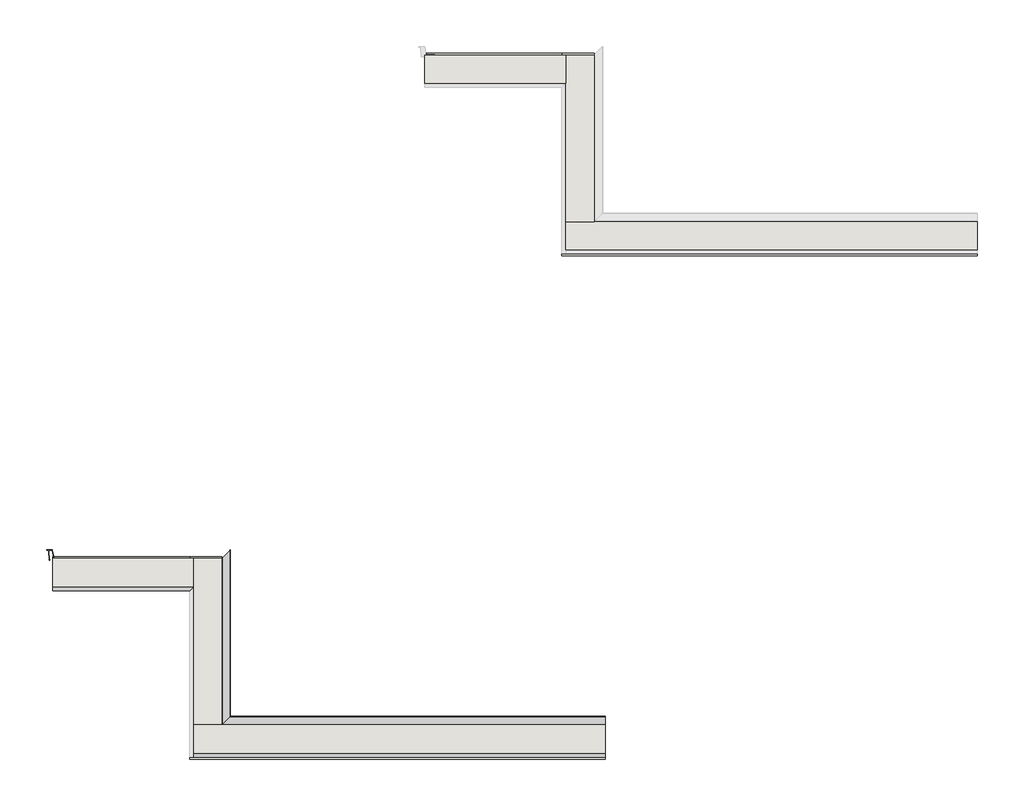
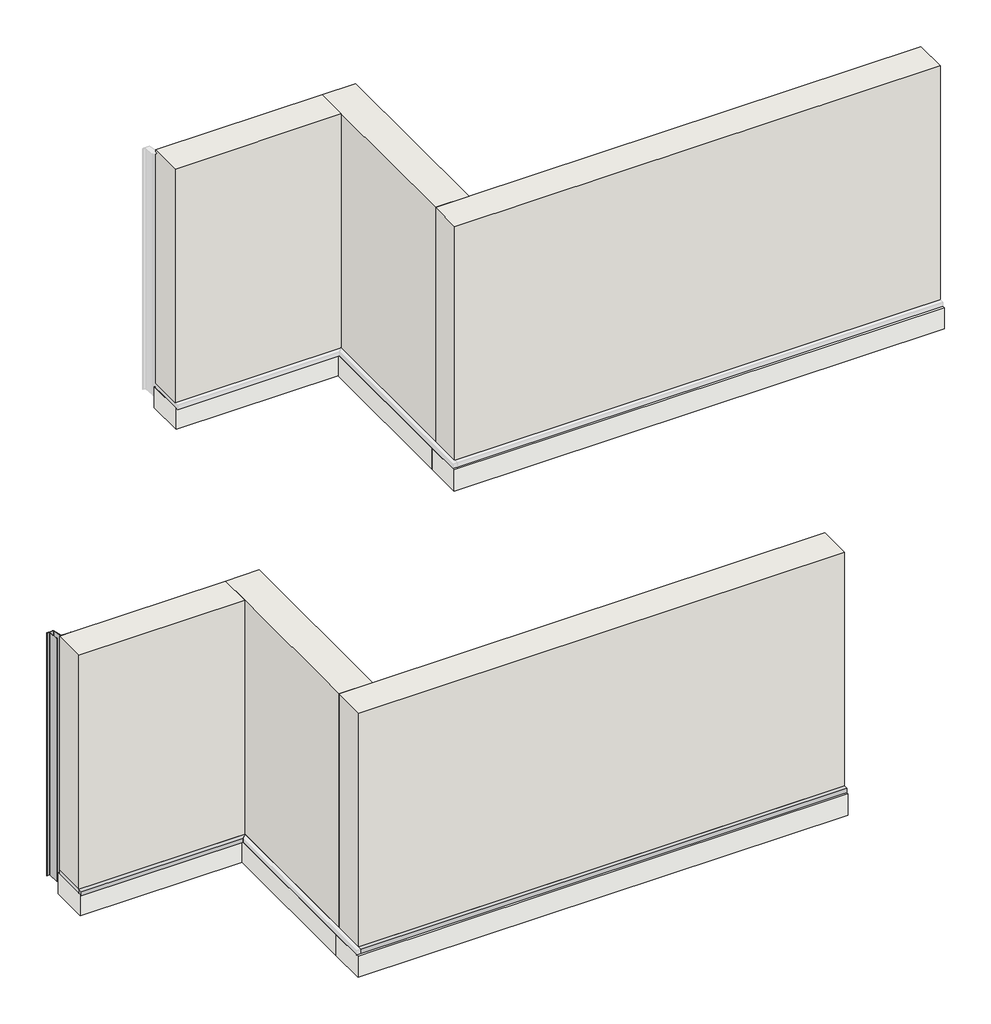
# One storey, part 1 of 2: 8 proxies, 6 footings, 6 walls.
"""IFC4 building model written with IfcOpenShell, lengths in millimetres."""

from ifc_helpers import new_model, si_unit, frame, origin, origin_with_axes, place, context, project, spatial, polyline, circle_curve, ellipse_curve, outline, extrude, faceted_brep, transform, mapped, element, save
from ifc_brep_helpers import plane_surface, cylinder_surface, revolved_surface, advanced_brep
from components import end_cap_end_cap_c93f98a4

model = new_model("IFC4")

# Units and contexts
model_context = context("Model", 3, world=origin())
ifc_project = project(units=[si_unit("LENGTHUNIT", "METRE", prefix="MILLI")], contexts=[model_context])

# Site, building, storey
site = spatial("IfcSite", under=ifc_project)
building = spatial("IfcBuilding", under=site)
storey = spatial("IfcBuildingStorey", under=building, Name="Air Blocking KPA-L150U", Elevation=0.0)

# Proxies
placement = place(None, origin())
element("IfcBuildingElementProxy", 1, Name="Joto-Vent KP-L150U", ObjectType="Joto-Vent KP-L150U", at=placement, inside=storey, context=model_context, shape_type="SweptSolid", body=[
    extrude(outline(polyline([(347.2963027, 5641.1901451), (497.2963027, 5791.1901451), (2522.2963027, 5791.1901451), (2522.2963027, 5641.1901451), (347.2963027, 5641.1901451)])), origin_with_axes(), (0.0, 0.0, 1.0), 20.0),
])
element("IfcBuildingElementProxy", 2, Name="Architectural-Covering_WACF-U45", ObjectType="Architectural-Covering_WACF-U45", at=placement, inside=storey, context=model_context, shape_type="AdvancedBrep", body=[
    advanced_brep(
    [(498.0963027, 5791.9901451, 62.5), (498.0963027, 5791.9901451, 18.6269726), (498.839923, 5792.7337654, 17.7168268), (541.5259972, 5835.4198396, 9.0322469), (542.2963027, 5836.1901451, 8.0894401), (542.2963027, 5836.1901451, -20.6283181), (539.4963027, 5833.3901451, -20.6283181), (539.4963027, 5833.3901451, -10.7749849), (538.7242223, 5832.6180647, -9.9754722), (488.7770757, 5782.6709181, -8.2312794), (488.8752389, 5782.7690814, -5.4202514), (493.3349669, 5787.2288093, -5.5759885), (493.3070643, 5787.2009067, -6.3750142), (488.8672982, 5782.7611407, -6.2199741), (488.8249402, 5782.7187826, -7.4329509), (539.3062365, 5833.2000789, -9.1957966), (540.2963027, 5834.1901451, -10.2210401), (540.2963027, 5834.1901451, -20.6018682), (541.4963027, 5835.3901451, -20.6018682), (541.4963027, 5835.3901451, 7.5064524), (540.7952188, 5834.6890613, 8.3645361), (498.0879552, 5791.9817976, 17.0534271), (497.2963027, 5791.1901451, 18.0223614), (497.2963027, 5791.1901451, 62.5), (2522.2963027, 5791.9901451, 62.5), (2522.2963027, 5791.1901451, 62.5), (2522.2963027, 5791.1901451, 18.0223614), (2522.2963027, 5791.9817976, 17.0534271), (2522.2963027, 5834.6890613, 8.3645361), (2522.2963027, 5835.3901451, 7.5064524), (2522.2963027, 5835.3901451, -20.6018682), (2522.2963027, 5834.1901451, -20.6018682), (2522.2963027, 5834.1901451, -10.2210401), (2522.2963027, 5833.2000789, -9.1957966), (2522.2963027, 5782.7187826, -7.4329509), (2522.2963027, 5782.7611407, -6.2199741), (2522.2963027, 5787.2009067, -6.3750142), (2522.2963027, 5787.2288093, -5.5759885), (2522.2963027, 5782.7690814, -5.4202514), (2522.2963027, 5782.6709181, -8.2312794), (2522.2963027, 5832.6180647, -9.9754722), (2522.2963027, 5833.3901451, -10.7749849), (2522.2963027, 5833.3901451, -20.6283181), (2522.2963027, 5836.1901451, -20.6283181), (2522.2963027, 5836.1901451, 8.0894401), (2522.2963027, 5835.4198396, 9.0322469), (2522.2963027, 5792.7337654, 17.7168268), (2522.2963027, 5791.9901451, 18.6269726)],
    [
        (0, 1),
        (1, 2, ellipse_curve(frame((499.0250942, 5792.9189367, 18.6269726), z_axis=(0.707106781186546, -0.7071067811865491, 0.0), x_axis=(0.707106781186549, 0.7071067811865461, 0.0)), 1.3135097, 0.9287916)),
        (2, 3),
        (3, 4, ellipse_curve(frame((541.334181, 5835.2280234, 8.0894401), z_axis=(-0.707106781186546, 0.7071067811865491, 0.0), x_axis=(-0.707106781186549, -0.7071067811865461, 0.0)), 1.3606455, 0.9621217)),
        (4, 5),
        (5, 6, ellipse_curve(frame((540.8963027, 5834.7901451, -20.6283181), z_axis=(-0.707106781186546, 0.7071067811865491, 0.0), x_axis=(-0.707106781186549, -0.7071067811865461, 0.0)), 1.979899, 1.4)),
        (6, 7),
        (7, 8, ellipse_curve(frame((538.6963027, 5832.5901451, -10.7749849), z_axis=(0.707106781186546, -0.7071067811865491, 0.0), x_axis=(0.707106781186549, 0.7071067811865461, 0.0)), 1.1313708, 0.8)),
        (8, 9),
        (9, 10, ellipse_curve(frame((488.8261573, 5782.7199997, -6.8257654), z_axis=(-0.707106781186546, 0.7071067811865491, 0.0), x_axis=(-0.707106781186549, -0.7071067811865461, 0.0)), 1.9889086, 1.4063707)),
        (10, 11),
        (11, 12),
        (12, 13),
        (13, 14, ellipse_curve(frame((488.8461192, 5782.7399616, -6.8264625), z_axis=(0.707106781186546, -0.7071067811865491, 0.0), x_axis=(0.707106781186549, 0.7071067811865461, 0.0)), 0.8582269, 0.6068581)),
        (14, 15),
        (15, 16, ellipse_curve(frame((539.2704342, 5833.1642766, -10.2210401), z_axis=(-0.707106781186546, 0.7071067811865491, 0.0), x_axis=(-0.707106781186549, -0.7071067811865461, 0.0)), 1.4507971, 1.0258685)),
        (16, 17),
        (17, 18, ellipse_curve(frame((540.8963027, 5834.7901451, -20.6018682), z_axis=(0.707106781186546, -0.7071067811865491, 0.0), x_axis=(0.707106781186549, 0.7071067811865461, 0.0)), 0.8485281, 0.6)),
        (18, 19),
        (19, 20, ellipse_curve(frame((540.6206397, 5834.5144822, 7.5064524), z_axis=(0.707106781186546, -0.7071067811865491, 0.0), x_axis=(0.707106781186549, 0.7071067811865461, 0.0)), 1.2383744, 0.8756629)),
        (20, 21),
        (21, 22, ellipse_curve(frame((498.2850871, 5792.1789295, 18.0223614), z_axis=(-0.707106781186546, 0.7071067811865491, 0.0), x_axis=(-0.707106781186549, -0.7071067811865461, 0.0)), 1.3983524, 0.9887844)),
        (22, 23),
        (23, 0),
        (24, 25),
        (25, 26),
        (26, 27, circle_curve(frame((2522.2963027, 5792.1789295, 18.0223614), z_axis=(1.0, 0.0, 0.0), x_axis=(0.0, 0.0, -1.0)), 0.9887844)),
        (27, 28),
        (28, 29, circle_curve(frame((2522.2963027, 5834.5144822, 7.5064524), z_axis=(-1.0, 0.0, 0.0), x_axis=(0.0, 0.0, -1.0)), 0.8756629)),
        (29, 30),
        (30, 31, circle_curve(frame((2522.2963027, 5834.7901451, -20.6018682), z_axis=(-1.0, 0.0, 0.0), x_axis=(0.0, 0.0, -1.0)), 0.6)),
        (31, 32),
        (32, 33, circle_curve(frame((2522.2963027, 5833.1642766, -10.2210401), z_axis=(1.0, 0.0, 0.0), x_axis=(0.0, 0.0, -1.0)), 1.0258685)),
        (33, 34),
        (34, 35, circle_curve(frame((2522.2963027, 5782.7399616, -6.8264625), z_axis=(-1.0, 0.0, 0.0), x_axis=(0.0, 0.0, -1.0)), 0.6068581)),
        (35, 36),
        (36, 37),
        (37, 38),
        (38, 39, circle_curve(frame((2522.2963027, 5782.7199997, -6.8257654), z_axis=(1.0, 0.0, 0.0), x_axis=(0.0, 0.0, -1.0)), 1.4063707)),
        (39, 40),
        (40, 41, circle_curve(frame((2522.2963027, 5832.5901451, -10.7749849), z_axis=(-1.0, 0.0, 0.0), x_axis=(0.0, 0.0, -1.0)), 0.8)),
        (41, 42),
        (42, 43, circle_curve(frame((2522.2963027, 5834.7901451, -20.6283181), z_axis=(1.0, 0.0, 0.0), x_axis=(0.0, 0.0, -1.0)), 1.4)),
        (43, 44),
        (44, 45, circle_curve(frame((2522.2963027, 5835.2280234, 8.0894401), z_axis=(1.0, 0.0, 0.0), x_axis=(0.0, 0.0, -1.0)), 0.9621217)),
        (45, 46),
        (46, 47, circle_curve(frame((2522.2963027, 5792.9189367, 18.6269726), z_axis=(-1.0, 0.0, 0.0), x_axis=(0.0, 0.0, -1.0)), 0.9287916)),
        (47, 24),
        (0, 24),
        (47, 1),
        (46, 2),
        (45, 3),
        (44, 4),
        (43, 5),
        (42, 6),
        (41, 7),
        (40, 8),
        (39, 9),
        (38, 10),
        (37, 11),
        (36, 12),
        (35, 13),
        (34, 14),
        (33, 15),
        (32, 16),
        (31, 17),
        (30, 18),
        (29, 19),
        (28, 20),
        (27, 21),
        (26, 22),
        (25, 23),
    ],
    [
        plane_surface(frame((497.2963027, 5791.1901451, -242.3), z_axis=(-0.707106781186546, 0.7071067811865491, 0.0), x_axis=(0.7071067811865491, 0.707106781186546, 0.0))),
        plane_surface(frame((2522.2963027, 5791.1901451, -32.610444), z_axis=(1.0, 0.0, 0.0), x_axis=(0.0, 1.0, 0.0))),
        plane_surface(frame((498.0963027, 5791.9901451, 62.5), z_axis=(0.0, 1.0, 0.0), x_axis=(1.0, 0.0, 0.0))),
        revolved_surface(polyline([(2522.2963027, 5792.9189367, 17.698180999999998), (498.0963025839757, 5792.9189367, 17.698180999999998)]), (497.2963027, 5792.9189367, 18.6269726), (1.0, 0.0, 0.0)),
        plane_surface(frame((498.839923, 5792.7337654, 17.7168268), z_axis=(0.0, 0.19936793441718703, 0.9799247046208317), x_axis=(1.0, 0.0, 0.0))),
        cylinder_surface(frame((497.2963027, 5835.2280234, 8.0894401), z_axis=(-1.0, 0.0, 0.0), x_axis=(0.0, 0.0, -1.0)), 0.9621217),
        plane_surface(frame((542.2963027, 5836.1901451, 8.0894401), z_axis=(0.0, 1.0, 0.0), x_axis=(1.0, 0.0, 0.0))),
        cylinder_surface(frame((497.2963027, 5834.7901451, -20.6283181), z_axis=(-1.0, 0.0, 0.0), x_axis=(0.0, 0.0, -1.0)), 1.4),
        plane_surface(frame((539.4963027, 5833.3901451, -20.6283181), z_axis=(0.0, -1.0, 0.0), x_axis=(1.0, 0.0, 0.0))),
        revolved_surface(polyline([(2522.2963027, 5832.5901451, -11.5749849), (537.8963027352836, 5832.5901451, -11.5749849)]), (497.2963027, 5832.5901451, -10.7749849), (1.0, 0.0, 0.0)),
        plane_surface(frame((538.7242223, 5832.6180647, -9.9754722), z_axis=(0.0, -0.03489949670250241, -0.9993908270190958), x_axis=(1.0, 0.0, 0.0))),
        cylinder_surface(frame((497.2963027, 5782.7199997, -6.8257654), z_axis=(-1.0, 0.0, 0.0), x_axis=(0.0, 0.0, -1.0)), 1.4063707),
        plane_surface(frame((488.8752389, 5782.7690814, -5.4202514), z_axis=(0.0, 0.03489949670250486, 0.9993908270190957), x_axis=(1.0, 0.0, 0.0))),
        plane_surface(frame((493.3349669, 5787.2288093, -5.5759885), z_axis=(0.0, 0.9993908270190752, -0.034899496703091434), x_axis=(1.0, 0.0, 0.0))),
        plane_surface(frame((493.3070643, 5787.2009067, -6.3750142), z_axis=(0.0, -0.03489949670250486, -0.9993908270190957), x_axis=(1.0, 0.0, 0.0))),
        revolved_surface(polyline([(2522.2963027, 5782.7399616, -7.4333206), (488.2392611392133, 5782.7399616, -7.4333206)]), (497.2963027, 5782.7399616, -6.8264625), (1.0, 0.0, 0.0)),
        plane_surface(frame((488.8249402, 5782.7187826, -7.4329509), z_axis=(0.0, 0.03489949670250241, 0.9993908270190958), x_axis=(1.0, 0.0, 0.0))),
        cylinder_surface(frame((497.2963027, 5833.1642766, -10.2210401), z_axis=(-1.0, 0.0, 0.0), x_axis=(0.0, 0.0, -1.0)), 1.0258685),
        plane_surface(frame((540.2963027, 5834.1901451, -10.2210401), z_axis=(0.0, 1.0, 0.0), x_axis=(1.0, 0.0, 0.0))),
        revolved_surface(polyline([(2522.2963027, 5834.7901451, -21.2018682), (540.2963027, 5834.7901451, -21.2018682)]), (497.2963027, 5834.7901451, -20.6018682), (1.0, 0.0, 0.0)),
        plane_surface(frame((541.4963027, 5835.3901451, -20.6018682), z_axis=(0.0, -1.0, 0.0), x_axis=(1.0, 0.0, 0.0))),
        revolved_surface(polyline([(2522.2963027, 5834.5144822, 6.6307895), (539.7449767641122, 5834.5144822, 6.6307895)]), (497.2963027, 5834.5144822, 7.5064524), (1.0, 0.0, 0.0)),
        plane_surface(frame((540.7952188, 5834.6890613, 8.3645361), z_axis=(0.0, -0.19936793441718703, -0.9799247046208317), x_axis=(1.0, 0.0, 0.0))),
        cylinder_surface(frame((497.2963027, 5792.1789295, 18.0223614), z_axis=(-1.0, 0.0, 0.0), x_axis=(0.0, 0.0, -1.0)), 0.9887844),
        plane_surface(frame((497.2963027, 5791.1901451, 18.0223614), z_axis=(0.0, -1.0, 0.0), x_axis=(1.0, 0.0, 0.0))),
        plane_surface(frame((497.2963027, 5791.1901451, 62.5), z_axis=(0.0, 0.0, 1.0), x_axis=(1.0, 0.0, 0.0))),
    ],
    [
        (0, [[1, 2, 3, 4, 5, 6, 7, 8, 9, 10, 11, 12, 13, 14, 15, 16, 17, 18, 19, 20, 21, 22, 23, 24]]),
        (1, [[25, 26, 27, 28, 29, 30, 31, 32, 33, 34, 35, 36, 37, 38, 39, 40, 41, 42, 43, 44, 45, 46, 47, 48]]),
        (2, [[-1, 49, -48, 50]]),
        (3, [[-2, -50, -47, 51]]),
        (4, [[-3, -51, -46, 52]]),
        (5, [[-4, -52, -45, 53]]),
        (6, [[-5, -53, -44, 54]]),
        (7, [[-6, -54, -43, 55]]),
        (8, [[-7, -55, -42, 56]]),
        (9, [[-8, -56, -41, 57]]),
        (10, [[-9, -57, -40, 58]]),
        (11, [[-10, -58, -39, 59]]),
        (12, [[-11, -59, -38, 60]]),
        (13, [[-12, -60, -37, 61]]),
        (14, [[-13, -61, -36, 62]]),
        (15, [[-14, -62, -35, 63]]),
        (16, [[-15, -63, -34, 64]]),
        (17, [[-16, -64, -33, 65]]),
        (18, [[-17, -65, -32, 66]]),
        (19, [[-18, -66, -31, 67]]),
        (20, [[-19, -67, -30, 68]]),
        (21, [[-20, -68, -29, 69]]),
        (22, [[-21, -69, -28, 70]]),
        (23, [[-22, -70, -27, 71]]),
        (24, [[-23, -71, -26, 72]]),
        (25, [[-24, -72, -25, -49]]),
    ],
),
])
element("IfcBuildingElementProxy", 3, Name="Joto-Vent KP-L150U", ObjectType="Joto-Vent KP-L150U", at=placement, inside=storey, context=model_context, shape_type="SweptSolid", body=[
    extrude(outline(polyline([(347.2963027, 6521.1901451), (497.2963027, 6671.1901451), (497.2963027, 5791.1901451), (347.2963027, 5641.1901451), (347.2963027, 6521.1901451)])), origin_with_axes(), (0.0, 0.0, 1.0), 20.0),
])
element("IfcBuildingElementProxy", 4, Name="Architectural-Covering_WACF-U45", ObjectType="Architectural-Covering_WACF-U45", at=placement, inside=storey, context=model_context, shape_type="AdvancedBrep", body=[
    advanced_brep(
    [(498.0963027, 6671.9901451, 62.5), (498.0963027, 6671.9901451, 18.6269726), (498.839923, 6672.7337654, 17.7168268), (541.5259972, 6715.4198396, 9.0322469), (542.2963027, 6716.1901451, 8.0894401), (542.2963027, 6716.1901451, -20.6283181), (539.4963027, 6713.3901451, -20.6283181), (539.4963027, 6713.3901451, -10.7749849), (538.7242223, 6712.6180647, -9.9754722), (488.7770757, 6662.6709181, -8.2312794), (488.8752389, 6662.7690814, -5.4202514), (493.3349669, 6667.2288093, -5.5759885), (493.3070643, 6667.2009067, -6.3750142), (488.8672982, 6662.7611407, -6.2199741), (488.8249402, 6662.7187826, -7.4329509), (539.3062365, 6713.2000789, -9.1957966), (540.2963027, 6714.1901451, -10.2210401), (540.2963027, 6714.1901451, -20.6018682), (541.4963027, 6715.3901451, -20.6018682), (541.4963027, 6715.3901451, 7.5064524), (540.7952188, 6714.6890613, 8.3645361), (498.0879552, 6671.9817976, 17.0534271), (497.2963027, 6671.1901451, 18.0223614), (497.2963027, 6671.1901451, 62.5), (498.0963027, 5791.9901451, 62.5), (497.2963027, 5791.1901451, 62.5), (497.2963027, 5791.1901451, 18.0223614), (498.0879552, 5791.9817976, 17.0534271), (540.7952188, 5834.6890613, 8.3645361), (541.4963027, 5835.3901451, 7.5064524), (541.4963027, 5835.3901451, -20.6018682), (540.2963027, 5834.1901451, -20.6018682), (540.2963027, 5834.1901451, -10.2210401), (539.3062365, 5833.2000789, -9.1957966), (488.8249402, 5782.7187826, -7.4329509), (488.8672982, 5782.7611407, -6.2199741), (493.3070643, 5787.2009067, -6.3750142), (493.3349669, 5787.2288093, -5.5759885), (488.8752389, 5782.7690814, -5.4202514), (488.7770757, 5782.6709181, -8.2312794), (538.7242223, 5832.6180647, -9.9754722), (539.4963027, 5833.3901451, -10.7749849), (539.4963027, 5833.3901451, -20.6283181), (542.2963027, 5836.1901451, -20.6283181), (542.2963027, 5836.1901451, 8.0894401), (541.5259972, 5835.4198396, 9.0322469), (498.839923, 5792.7337654, 17.7168268), (498.0963027, 5791.9901451, 18.6269726)],
    [
        (0, 1),
        (1, 2, ellipse_curve(frame((499.0250942, 6672.9189367, 18.6269726), z_axis=(0.7071067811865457, -0.7071067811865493, 0.0), x_axis=(-0.7071067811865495, -0.7071067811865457, 0.0)), 1.3135097, 0.9287916)),
        (2, 3),
        (3, 4, ellipse_curve(frame((541.334181, 6715.2280234, 8.0894401), z_axis=(-0.7071067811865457, 0.7071067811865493, 0.0), x_axis=(0.7071067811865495, 0.7071067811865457, 0.0)), 1.3606455, 0.9621217)),
        (4, 5),
        (5, 6, ellipse_curve(frame((540.8963027, 6714.7901451, -20.6283181), z_axis=(-0.7071067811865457, 0.7071067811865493, 0.0), x_axis=(0.7071067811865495, 0.7071067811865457, 0.0)), 1.979899, 1.4)),
        (6, 7),
        (7, 8, ellipse_curve(frame((538.6963027, 6712.5901451, -10.7749849), z_axis=(0.7071067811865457, -0.7071067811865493, 0.0), x_axis=(-0.7071067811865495, -0.7071067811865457, 0.0)), 1.1313708, 0.8)),
        (8, 9),
        (9, 10, ellipse_curve(frame((488.8261573, 6662.7199997, -6.8257654), z_axis=(-0.7071067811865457, 0.7071067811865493, 0.0), x_axis=(0.7071067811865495, 0.7071067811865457, 0.0)), 1.9889086, 1.4063707)),
        (10, 11),
        (11, 12),
        (12, 13),
        (13, 14, ellipse_curve(frame((488.8461192, 6662.7399616, -6.8264625), z_axis=(0.7071067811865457, -0.7071067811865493, 0.0), x_axis=(-0.7071067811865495, -0.7071067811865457, 0.0)), 0.8582269, 0.6068581)),
        (14, 15),
        (15, 16, ellipse_curve(frame((539.2704342, 6713.1642766, -10.2210401), z_axis=(-0.7071067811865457, 0.7071067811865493, 0.0), x_axis=(0.7071067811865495, 0.7071067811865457, 0.0)), 1.4507971, 1.0258685)),
        (16, 17),
        (17, 18, ellipse_curve(frame((540.8963027, 6714.7901451, -20.6018682), z_axis=(0.7071067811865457, -0.7071067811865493, 0.0), x_axis=(-0.7071067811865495, -0.7071067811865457, 0.0)), 0.8485281, 0.6)),
        (18, 19),
        (19, 20, ellipse_curve(frame((540.6206397, 6714.5144822, 7.5064524), z_axis=(0.7071067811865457, -0.7071067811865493, 0.0), x_axis=(-0.7071067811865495, -0.7071067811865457, 0.0)), 1.2383744, 0.8756629)),
        (20, 21),
        (21, 22, ellipse_curve(frame((498.2850871, 6672.1789295, 18.0223614), z_axis=(-0.7071067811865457, 0.7071067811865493, 0.0), x_axis=(0.7071067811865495, 0.7071067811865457, 0.0)), 1.3983524, 0.9887844)),
        (22, 23),
        (23, 0),
        (24, 25),
        (25, 26),
        (26, 27, ellipse_curve(frame((498.2850871, 5792.1789295, 18.0223614), z_axis=(0.707106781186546, -0.7071067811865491, 0.0), x_axis=(0.7071067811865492, 0.7071067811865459, 0.0)), 1.3983524, 0.9887844)),
        (27, 28),
        (28, 29, ellipse_curve(frame((540.6206397, 5834.5144822, 7.5064524), z_axis=(-0.707106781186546, 0.7071067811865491, 0.0), x_axis=(-0.7071067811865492, -0.7071067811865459, 0.0)), 1.2383744, 0.8756629)),
        (29, 30),
        (30, 31, ellipse_curve(frame((540.8963027, 5834.7901451, -20.6018682), z_axis=(-0.707106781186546, 0.7071067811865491, 0.0), x_axis=(-0.7071067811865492, -0.7071067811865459, 0.0)), 0.8485281, 0.6)),
        (31, 32),
        (32, 33, ellipse_curve(frame((539.2704342, 5833.1642766, -10.2210401), z_axis=(0.707106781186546, -0.7071067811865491, 0.0), x_axis=(0.7071067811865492, 0.7071067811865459, 0.0)), 1.4507971, 1.0258685)),
        (33, 34),
        (34, 35, ellipse_curve(frame((488.8461192, 5782.7399616, -6.8264625), z_axis=(-0.707106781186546, 0.7071067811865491, 0.0), x_axis=(-0.7071067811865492, -0.7071067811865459, 0.0)), 0.8582269, 0.6068581)),
        (35, 36),
        (36, 37),
        (37, 38),
        (38, 39, ellipse_curve(frame((488.8261573, 5782.7199997, -6.8257654), z_axis=(0.707106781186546, -0.7071067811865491, 0.0), x_axis=(0.7071067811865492, 0.7071067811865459, 0.0)), 1.9889086, 1.4063707)),
        (39, 40),
        (40, 41, ellipse_curve(frame((538.6963027, 5832.5901451, -10.7749849), z_axis=(-0.707106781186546, 0.7071067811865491, 0.0), x_axis=(-0.7071067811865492, -0.7071067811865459, 0.0)), 1.1313708, 0.8)),
        (41, 42),
        (42, 43, ellipse_curve(frame((540.8963027, 5834.7901451, -20.6283181), z_axis=(0.707106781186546, -0.7071067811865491, 0.0), x_axis=(0.7071067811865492, 0.7071067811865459, 0.0)), 1.979899, 1.4)),
        (43, 44),
        (44, 45, ellipse_curve(frame((541.334181, 5835.2280234, 8.0894401), z_axis=(0.707106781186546, -0.7071067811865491, 0.0), x_axis=(0.7071067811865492, 0.7071067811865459, 0.0)), 1.3606455, 0.9621217)),
        (45, 46),
        (46, 47, ellipse_curve(frame((499.0250942, 5792.9189367, 18.6269726), z_axis=(-0.707106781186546, 0.7071067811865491, 0.0), x_axis=(-0.7071067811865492, -0.7071067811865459, 0.0)), 1.3135097, 0.9287916)),
        (47, 24),
        (0, 24),
        (47, 1),
        (46, 2),
        (45, 3),
        (44, 4),
        (43, 5),
        (42, 6),
        (41, 7),
        (40, 8),
        (39, 9),
        (38, 10),
        (37, 11),
        (36, 12),
        (35, 13),
        (34, 14),
        (33, 15),
        (32, 16),
        (31, 17),
        (30, 18),
        (29, 19),
        (28, 20),
        (27, 21),
        (26, 22),
        (25, 23),
    ],
    [
        plane_surface(frame((497.2963027, 6671.1901451, 367.3), z_axis=(-0.7071067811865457, 0.7071067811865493, 0.0), x_axis=(-0.7071067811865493, -0.7071067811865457, 0.0))),
        plane_surface(frame((497.2963027, 5791.1901451, -242.3), z_axis=(0.707106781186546, -0.7071067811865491, 0.0), x_axis=(0.7071067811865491, 0.707106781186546, 0.0))),
        plane_surface(frame((498.0963027, 6671.9901451, 62.5), z_axis=(1.0, 0.0, 0.0), x_axis=(0.0, -1.0, 0.0))),
        revolved_surface(polyline([(499.0250942, 5791.990145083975, 17.698180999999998), (499.0250942, 6673.847728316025, 17.698180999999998)]), (499.0250942, 6671.1901451, 18.6269726), (0.0, -1.0, 0.0)),
        plane_surface(frame((498.839923, 6672.7337654, 17.7168268), z_axis=(0.19936793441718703, 0.0, 0.9799247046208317), x_axis=(0.0, -1.0, 0.0))),
        cylinder_surface(frame((541.334181, 6671.1901451, 8.0894401), z_axis=(0.0, 1.0, 0.0), x_axis=(0.0, 0.0, -1.0)), 0.9621217),
        plane_surface(frame((542.2963027, 6716.1901451, 8.0894401), z_axis=(1.0, 0.0, 0.0), x_axis=(0.0, -1.0, 0.0))),
        cylinder_surface(frame((540.8963027, 6671.1901451, -20.6283181), z_axis=(0.0, 1.0, 0.0), x_axis=(0.0, 0.0, -1.0)), 1.4),
        plane_surface(frame((539.4963027, 6713.3901451, -20.6283181), z_axis=(-1.0, 0.0, 0.0), x_axis=(0.0, -1.0, 0.0))),
        revolved_surface(polyline([(538.6963027, 5831.790145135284, -11.5749849), (538.6963027, 6713.3901451, -11.5749849)]), (538.6963027, 6671.1901451, -10.7749849), (0.0, -1.0, 0.0)),
        plane_surface(frame((538.7242223, 6712.6180647, -9.9754722), z_axis=(-0.03489949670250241, 0.0, -0.9993908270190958), x_axis=(0.0, -1.0, 0.0))),
        cylinder_surface(frame((488.8261573, 6671.1901451, -6.8257654), z_axis=(0.0, 1.0, 0.0), x_axis=(0.0, 0.0, -1.0)), 1.4063707),
        plane_surface(frame((488.8752389, 6662.7690814, -5.4202514), z_axis=(0.03489949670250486, 0.0, 0.9993908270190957), x_axis=(0.0, -1.0, 0.0))),
        plane_surface(frame((493.3349669, 6667.2288093, -5.5759885), z_axis=(0.9993908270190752, 0.0, -0.034899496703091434), x_axis=(0.0, -1.0, 0.0))),
        plane_surface(frame((493.3070643, 6667.2009067, -6.3750142), z_axis=(-0.03489949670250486, 0.0, -0.9993908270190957), x_axis=(0.0, -1.0, 0.0))),
        revolved_surface(polyline([(488.8461192, 5782.133103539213, -7.4333206), (488.8461192, 6663.346819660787, -7.4333206)]), (488.8461192, 6671.1901451, -6.8264625), (0.0, -1.0, 0.0)),
        plane_surface(frame((488.8249402, 6662.7187826, -7.4329509), z_axis=(0.03489949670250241, 0.0, 0.9993908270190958), x_axis=(0.0, -1.0, 0.0))),
        cylinder_surface(frame((539.2704342, 6671.1901451, -10.2210401), z_axis=(0.0, 1.0, 0.0), x_axis=(0.0, 0.0, -1.0)), 1.0258685),
        plane_surface(frame((540.2963027, 6714.1901451, -10.2210401), z_axis=(1.0, 0.0, 0.0), x_axis=(0.0, -1.0, 0.0))),
        revolved_surface(polyline([(540.8963027, 5834.1901451, -21.2018682), (540.8963027, 6715.3901451, -21.2018682)]), (540.8963027, 6671.1901451, -20.6018682), (0.0, -1.0, 0.0)),
        plane_surface(frame((541.4963027, 6715.3901451, -20.6018682), z_axis=(-1.0, 0.0, 0.0), x_axis=(0.0, -1.0, 0.0))),
        revolved_surface(polyline([(540.6206397, 5833.6388192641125, 6.6307895), (540.6206397, 6715.390145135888, 6.6307895)]), (540.6206397, 6671.1901451, 7.5064524), (0.0, -1.0, 0.0)),
        plane_surface(frame((540.7952188, 6714.6890613, 8.3645361), z_axis=(-0.19936793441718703, 0.0, -0.9799247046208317), x_axis=(0.0, -1.0, 0.0))),
        cylinder_surface(frame((498.2850871, 6671.1901451, 18.0223614), z_axis=(0.0, 1.0, 0.0), x_axis=(0.0, 0.0, -1.0)), 0.9887844),
        plane_surface(frame((497.2963027, 6671.1901451, 18.0223614), z_axis=(-1.0, 0.0, 0.0), x_axis=(0.0, -1.0, 0.0))),
        plane_surface(frame((497.2963027, 6671.1901451, 62.5), z_axis=(0.0, 0.0, 1.0), x_axis=(0.0, -1.0, 0.0))),
    ],
    [
        (0, [[1, 2, 3, 4, 5, 6, 7, 8, 9, 10, 11, 12, 13, 14, 15, 16, 17, 18, 19, 20, 21, 22, 23, 24]]),
        (1, [[25, 26, 27, 28, 29, 30, 31, 32, 33, 34, 35, 36, 37, 38, 39, 40, 41, 42, 43, 44, 45, 46, 47, 48]]),
        (2, [[-1, 49, -48, 50]]),
        (3, [[-2, -50, -47, 51]]),
        (4, [[-3, -51, -46, 52]]),
        (5, [[-4, -52, -45, 53]]),
        (6, [[-5, -53, -44, 54]]),
        (7, [[-6, -54, -43, 55]]),
        (8, [[-7, -55, -42, 56]]),
        (9, [[-8, -56, -41, 57]]),
        (10, [[-9, -57, -40, 58]]),
        (11, [[-10, -58, -39, 59]]),
        (12, [[-11, -59, -38, 60]]),
        (13, [[-12, -60, -37, 61]]),
        (14, [[-13, -61, -36, 62]]),
        (15, [[-14, -62, -35, 63]]),
        (16, [[-15, -63, -34, 64]]),
        (17, [[-16, -64, -33, 65]]),
        (18, [[-17, -65, -32, 66]]),
        (19, [[-18, -66, -31, 67]]),
        (20, [[-19, -67, -30, 68]]),
        (21, [[-20, -68, -29, 69]]),
        (22, [[-21, -69, -28, 70]]),
        (23, [[-22, -70, -27, 71]]),
        (24, [[-23, -71, -26, 72]]),
        (25, [[-24, -72, -25, -49]]),
    ],
),
])
element("IfcBuildingElementProxy", 5, Name="Architectural-Covering_WACF-U45", ObjectType="Architectural-Covering_WACF-U45", at=placement, inside=storey, context=model_context, shape_type="AdvancedBrep", body=[
    advanced_brep(
    [(-345.2036973, 6671.9901451, 1126.4586166), (-389.0767247, 6671.9901451, 1126.4586166), (-389.9868705, 6672.7337654, 1126.4586166), (-398.6714505, 6715.4198396, 1126.4586166), (-399.6142573, 6716.1901451, 1126.4586166), (-428.3320155, 6716.1901451, 1126.4586166), (-428.3320155, 6713.3901451, 1126.4586166), (-418.4786822, 6713.3901451, 1126.4586166), (-417.6791696, 6712.6180647, 1126.4586166), (-415.9349768, 6662.6709181, 1126.4586166), (-413.1239488, 6662.7690814, 1126.4586166), (-413.2796859, 6667.2288093, 1126.4586166), (-414.0787115, 6667.2009067, 1126.4586166), (-413.9236715, 6662.7611407, 1126.4586166), (-415.1366482, 6662.7187826, 1126.4586166), (-416.8994939, 6713.2000789, 1126.4586166), (-417.9247375, 6714.1901451, 1126.4586166), (-428.3055655, 6714.1901451, 1126.4586166), (-428.3055655, 6715.3901451, 1126.4586166), (-400.1972449, 6715.3901451, 1126.4586166), (-399.3391612, 6714.6890613, 1126.4586166), (-390.6502702, 6671.9817976, 1126.4586166), (-389.6813359, 6671.1901451, 1126.4586166), (-345.2036973, 6671.1901451, 1126.4586166), (-345.2036973, 6671.9901451, -21.629051), (-345.2036973, 6671.1901451, -21.629051), (-389.6813359, 6671.1901451, -21.629051), (-390.6502702, 6671.9817976, -21.629051), (-399.3391612, 6714.6890613, -21.629051), (-400.1972449, 6715.3901451, -21.629051), (-428.3055655, 6715.3901451, -21.629051), (-428.3055655, 6714.1901451, -21.629051), (-417.9247375, 6714.1901451, -21.629051), (-416.8994939, 6713.2000789, -21.629051), (-415.1366482, 6662.7187826, -21.629051), (-413.9236715, 6662.7611407, -21.629051), (-414.0787115, 6667.2009067, -21.629051), (-413.2796859, 6667.2288093, -21.629051), (-413.1239488, 6662.7690814, -21.629051), (-415.9349768, 6662.6709181, -21.629051), (-417.6791696, 6712.6180647, -21.629051), (-418.4786822, 6713.3901451, -21.629051), (-428.3320155, 6713.3901451, -21.629051), (-428.3320155, 6716.1901451, -21.629051), (-399.6142573, 6716.1901451, -21.629051), (-398.6714505, 6715.4198396, -21.629051), (-389.9868705, 6672.7337654, -21.629051), (-389.0767247, 6671.9901451, -21.629051), (-345.2036973, 6671.9901451, 62.5), (-345.2036973, 6671.9901451, 18.6269726), (-345.2036973, 6671.9901451, 17.0534271), (-345.2036973, 6671.9901451, -7.756714), (-345.2036973, 6671.9901451, -8.556714), (-345.2036973, 6671.1901451, -8.5287774), (-345.2036973, 6671.1901451, -7.7287774), (-345.2036973, 6671.1901451, 18.0223614), (-345.2036973, 6671.1901451, 62.5)],
    [
        (0, 1),
        (1, 2, circle_curve(frame((-389.0767247, 6672.9189367, 1126.4586166), z_axis=(0.0, 0.0, -1.0), x_axis=(-1.0, 0.0, 0.0)), 0.9287916)),
        (2, 3),
        (3, 4, circle_curve(frame((-399.6142573, 6715.2280234, 1126.4586166), z_axis=(0.0, 0.0, 1.0), x_axis=(-1.0, 0.0, 0.0)), 0.9621217)),
        (4, 5),
        (5, 6, circle_curve(frame((-428.3320155, 6714.7901451, 1126.4586166), z_axis=(0.0, 0.0, 1.0), x_axis=(-1.0, 0.0, 0.0)), 1.4)),
        (6, 7),
        (7, 8, circle_curve(frame((-418.4786822, 6712.5901451, 1126.4586166), z_axis=(0.0, 0.0, -1.0), x_axis=(-1.0, 0.0, 0.0)), 0.8)),
        (8, 9),
        (9, 10, circle_curve(frame((-414.5294628, 6662.7199997, 1126.4586166), z_axis=(0.0, 0.0, 1.0), x_axis=(-1.0, 0.0, 0.0)), 1.4063707)),
        (10, 11),
        (11, 12),
        (12, 13),
        (13, 14, circle_curve(frame((-414.5301599, 6662.7399616, 1126.4586166), z_axis=(0.0, 0.0, -1.0), x_axis=(-1.0, 0.0, 0.0)), 0.6068581)),
        (14, 15),
        (15, 16, circle_curve(frame((-417.9247375, 6713.1642766, 1126.4586166), z_axis=(0.0, 0.0, 1.0), x_axis=(-1.0, 0.0, 0.0)), 1.0258685)),
        (16, 17),
        (17, 18, circle_curve(frame((-428.3055655, 6714.7901451, 1126.4586166), z_axis=(0.0, 0.0, -1.0), x_axis=(-1.0, 0.0, 0.0)), 0.6)),
        (18, 19),
        (19, 20, circle_curve(frame((-400.1972449, 6714.5144822, 1126.4586166), z_axis=(0.0, 0.0, -1.0), x_axis=(-1.0, 0.0, 0.0)), 0.8756629)),
        (20, 21),
        (21, 22, circle_curve(frame((-389.6813359, 6672.1789295, 1126.4586166), z_axis=(0.0, 0.0, 1.0), x_axis=(-1.0, 0.0, 0.0)), 0.9887844)),
        (22, 23),
        (23, 0),
        (24, 25),
        (25, 26),
        (26, 27, circle_curve(frame((-389.6813359, 6672.1789295, -21.629051), z_axis=(0.0, 0.0, -1.0), x_axis=(-1.0, 0.0, 0.0)), 0.9887844)),
        (27, 28),
        (28, 29, circle_curve(frame((-400.1972449, 6714.5144822, -21.629051), z_axis=(0.0, 0.0, 1.0), x_axis=(-1.0, 0.0, 0.0)), 0.8756629)),
        (29, 30),
        (30, 31, circle_curve(frame((-428.3055655, 6714.7901451, -21.629051), z_axis=(0.0, 0.0, 1.0), x_axis=(-1.0, 0.0, 0.0)), 0.6)),
        (31, 32),
        (32, 33, circle_curve(frame((-417.9247375, 6713.1642766, -21.629051), z_axis=(0.0, 0.0, -1.0), x_axis=(-1.0, 0.0, 0.0)), 1.0258685)),
        (33, 34),
        (34, 35, circle_curve(frame((-414.5301599, 6662.7399616, -21.629051), z_axis=(0.0, 0.0, 1.0), x_axis=(-1.0, 0.0, 0.0)), 0.6068581)),
        (35, 36),
        (36, 37),
        (37, 38),
        (38, 39, circle_curve(frame((-414.5294628, 6662.7199997, -21.629051), z_axis=(0.0, 0.0, -1.0), x_axis=(-1.0, 0.0, 0.0)), 1.4063707)),
        (39, 40),
        (40, 41, circle_curve(frame((-418.4786822, 6712.5901451, -21.629051), z_axis=(0.0, 0.0, 1.0), x_axis=(-1.0, 0.0, 0.0)), 0.8)),
        (41, 42),
        (42, 43, circle_curve(frame((-428.3320155, 6714.7901451, -21.629051), z_axis=(0.0, 0.0, -1.0), x_axis=(-1.0, 0.0, 0.0)), 1.4)),
        (43, 44),
        (44, 45, circle_curve(frame((-399.6142573, 6715.2280234, -21.629051), z_axis=(0.0, 0.0, -1.0), x_axis=(-1.0, 0.0, 0.0)), 0.9621217)),
        (45, 46),
        (46, 47, circle_curve(frame((-389.0767247, 6672.9189367, -21.629051), z_axis=(0.0, 0.0, 1.0), x_axis=(-1.0, 0.0, 0.0)), 0.9287916)),
        (47, 24),
        (0, 48),
        (48, 49),
        (49, 50),
        (50, 51),
        (51, 52),
        (52, 24),
        (47, 1),
        (46, 2),
        (45, 3),
        (44, 4),
        (43, 5),
        (42, 6),
        (41, 7),
        (40, 8),
        (39, 9),
        (38, 10),
        (37, 11),
        (36, 12),
        (35, 13),
        (34, 14),
        (33, 15),
        (32, 16),
        (31, 17),
        (30, 18),
        (29, 19),
        (28, 20),
        (27, 21),
        (26, 22),
        (25, 53),
        (53, 54),
        (54, 55),
        (55, 56),
        (56, 23),
    ],
    [
        plane_surface(frame((-345.2036973, 6576.0797011, 1126.4586166), z_axis=(0.0, 0.0, 1.0), x_axis=(-1.0, 0.0, 0.0))),
        plane_surface(frame((-345.2036973, 6576.0797011, -21.629051), z_axis=(0.0, 0.0, -1.0), x_axis=(-1.0, 0.0, 0.0))),
        plane_surface(frame((-345.2036973, 6671.9901451, 1126.4586166), z_axis=(0.0, 1.0, 0.0), x_axis=(0.0, 0.0, -1.0))),
        revolved_surface(polyline([(-390.0055163, 6672.9189367, -21.62905099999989), (-390.0055163, 6672.9189367, 1126.4586166)]), (-389.0767247, 6672.9189367, 1126.4586166), (0.0, 0.0, -1.0)),
        plane_surface(frame((-389.9868705, 6672.7337654, 1126.4586166), z_axis=(0.9799247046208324, 0.19936793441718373, 0.0), x_axis=(0.0, 0.0, -1.0))),
        cylinder_surface(frame((-399.6142573, 6715.2280234, 1126.4586166), z_axis=(0.0, 0.0, 1.0), x_axis=(-1.0, 0.0, 0.0)), 0.9621217),
        plane_surface(frame((-399.6142573, 6716.1901451, 1126.4586166), z_axis=(0.0, 1.0, 0.0), x_axis=(0.0, 0.0, -1.0))),
        cylinder_surface(frame((-428.3320155, 6714.7901451, 1126.4586166), z_axis=(0.0, 0.0, 1.0), x_axis=(-1.0, 0.0, 0.0)), 1.4),
        plane_surface(frame((-428.3320155, 6713.3901451, 1126.4586166), z_axis=(0.0, -1.0, 0.0), x_axis=(0.0, 0.0, -1.0))),
        revolved_surface(polyline([(-419.2786822, 6712.5901451, -21.62905099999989), (-419.2786822, 6712.5901451, 1126.4586166)]), (-418.4786822, 6712.5901451, 1126.4586166), (0.0, 0.0, -1.0)),
        plane_surface(frame((-417.6791696, 6712.6180647, 1126.4586166), z_axis=(-0.9993908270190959, -0.03489949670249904, 0.0), x_axis=(0.0, 0.0, -1.0))),
        cylinder_surface(frame((-414.5294628, 6662.7199997, 1126.4586166), z_axis=(0.0, 0.0, 1.0), x_axis=(-1.0, 0.0, 0.0)), 1.4063707),
        plane_surface(frame((-413.1239488, 6662.7690814, 1126.4586166), z_axis=(0.9993908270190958, 0.03489949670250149, 0.0), x_axis=(0.0, 0.0, -1.0))),
        plane_surface(frame((-413.2796859, 6667.2288093, 1126.4586166), z_axis=(-0.03489949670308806, 0.9993908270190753, 0.0), x_axis=(0.0, 0.0, -1.0))),
        plane_surface(frame((-414.0787115, 6667.2009067, 1126.4586166), z_axis=(-0.9993908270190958, -0.03489949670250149, 0.0), x_axis=(0.0, 0.0, -1.0))),
        revolved_surface(polyline([(-415.137018, 6662.7399616, -21.62905099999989), (-415.137018, 6662.7399616, 1126.4586166)]), (-414.5301599, 6662.7399616, 1126.4586166), (0.0, 0.0, -1.0)),
        plane_surface(frame((-415.1366482, 6662.7187826, 1126.4586166), z_axis=(0.9993908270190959, 0.03489949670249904, 0.0), x_axis=(0.0, 0.0, -1.0))),
        cylinder_surface(frame((-417.9247375, 6713.1642766, 1126.4586166), z_axis=(0.0, 0.0, 1.0), x_axis=(-1.0, 0.0, 0.0)), 1.0258685),
        plane_surface(frame((-417.9247375, 6714.1901451, 1126.4586166), z_axis=(0.0, 1.0, 0.0), x_axis=(0.0, 0.0, -1.0))),
        revolved_surface(polyline([(-428.9055655, 6714.7901451, -21.62905099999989), (-428.9055655, 6714.7901451, 1126.4586166)]), (-428.3055655, 6714.7901451, 1126.4586166), (0.0, 0.0, -1.0)),
        plane_surface(frame((-428.3055655, 6715.3901451, 1126.4586166), z_axis=(0.0, -1.0, 0.0), x_axis=(0.0, 0.0, -1.0))),
        revolved_surface(polyline([(-401.0729078, 6714.5144822, -21.62905099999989), (-401.0729078, 6714.5144822, 1126.4586166)]), (-400.1972449, 6714.5144822, 1126.4586166), (0.0, 0.0, -1.0)),
        plane_surface(frame((-399.3391612, 6714.6890613, 1126.4586166), z_axis=(-0.9799247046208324, -0.19936793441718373, 0.0), x_axis=(0.0, 0.0, -1.0))),
        cylinder_surface(frame((-389.6813359, 6672.1789295, 1126.4586166), z_axis=(0.0, 0.0, 1.0), x_axis=(-1.0, 0.0, 0.0)), 0.9887844),
        plane_surface(frame((-389.6813359, 6671.1901451, 1126.4586166), z_axis=(0.0, -1.0, 0.0), x_axis=(0.0, 0.0, -1.0))),
        plane_surface(frame((-345.2036973, 6671.1901451, 1126.4586166), z_axis=(1.0, 0.0, 0.0), x_axis=(0.0, 0.0, -1.0))),
    ],
    [
        (0, [[1, 2, 3, 4, 5, 6, 7, 8, 9, 10, 11, 12, 13, 14, 15, 16, 17, 18, 19, 20, 21, 22, 23, 24]]),
        (1, [[25, 26, 27, 28, 29, 30, 31, 32, 33, 34, 35, 36, 37, 38, 39, 40, 41, 42, 43, 44, 45, 46, 47, 48]]),
        (2, [[-1, 49, 50, 51, 52, 53, 54, -48, 55]]),
        (3, [[-2, -55, -47, 56]]),
        (4, [[-3, -56, -46, 57]]),
        (5, [[-4, -57, -45, 58]]),
        (6, [[-5, -58, -44, 59]]),
        (7, [[-6, -59, -43, 60]]),
        (8, [[-7, -60, -42, 61]]),
        (9, [[-8, -61, -41, 62]]),
        (10, [[-9, -62, -40, 63]]),
        (11, [[-10, -63, -39, 64]]),
        (12, [[-11, -64, -38, 65]]),
        (13, [[-12, -65, -37, 66]]),
        (14, [[-13, -66, -36, 67]]),
        (15, [[-14, -67, -35, 68]]),
        (16, [[-15, -68, -34, 69]]),
        (17, [[-16, -69, -33, 70]]),
        (18, [[-17, -70, -32, 71]]),
        (19, [[-18, -71, -31, 72]]),
        (20, [[-19, -72, -30, 73]]),
        (21, [[-20, -73, -29, 74]]),
        (22, [[-21, -74, -28, 75]]),
        (23, [[-22, -75, -27, 76]]),
        (24, [[-23, -76, -26, 77, 78, 79, 80, 81]]),
        (25, [[-24, -81, -80, -79, -78, -77, -25, -54, -53, -52, -51, -50, -49]]),
    ],
),
])
element("IfcBuildingElementProxy", 6, Name="Air-Blocking KPA-L150U", ObjectType="Air-Blocking KPA-L150U", at=placement, inside=storey, context=model_context, shape_type="SweptSolid", body=[
    extrude(outline(polyline([(2522.2963027, 5641.1901451), (2522.2963027, 5621.1901451), (347.2963027, 5621.1901451), (347.2963027, 5641.1901451), (2522.2963027, 5641.1901451)])), origin_with_axes(), (0.0, 0.0, 1.0), 20.0),
])
element("IfcBuildingElementProxy", 7, Name="Air-Blocking KPA-L150U", ObjectType="Air-Blocking KPA-L150U", at=placement, inside=storey, context=model_context, shape_type="SweptSolid", body=[
    extrude(outline(polyline([(347.2963027, 6521.1901451), (327.2963027, 6501.1901451), (-397.7036973, 6501.1901451), (-397.7036973, 6521.1901451), (347.2963027, 6521.1901451)])), origin_with_axes(), (0.0, 0.0, 1.0), 20.0),
])
end_cap_end_cap_shape = end_cap_end_cap_c93f98a4(model_context)
element("IfcBuildingElementProxy", 8, Name="End Cap : End Cap", ObjectType="End Cap : End Cap", at=placement, inside=storey, context=model_context, shape_type="MappedRepresentation", body=[
    mapped(end_cap_end_cap_shape, transform((2522.2963027, 5781.3144857, -8.3143737), x_axis=(0.0, 0.0, 1.0), y_axis=(0.0, -1.0, 0.0), z_axis=(1.0, 0.0, 0.0))),
])

# Footings
element("IfcFooting", 9, ObjectType="Bearing Footing - 900 x 300", at=placement, inside=storey, context=model_context, shape_type="Brep", body=[
    faceted_brep([(2294.048582, 8271.6714085, 0.0), (2294.048582, 8441.6714085, 0.0), (2294.048582, 8441.6714085, -100.0), (2294.048582, 8271.6714085, -100.0), (4489.048582, 8441.6714085, 0.0), (4489.048582, 8271.6714085, 0.0), (4489.048582, 8271.6714085, -100.0), (4489.048582, 8441.6714085, -100.0), (2464.048582, 8441.6714085, 0.0), (2464.048582, 8441.6714085, -100.0)], [[[0, 1, 2, 3]], [[4, 5, 6, 7]], [[0, 5, 4, 8, 1]], [[2, 1, 8, 4, 7, 9]], [[3, 2, 9, 7, 6]], [[0, 3, 6, 5]]]),
])
element("IfcFooting", 10, ObjectType="Bearing Footing - 900 x 300", at=placement, inside=storey, context=model_context, shape_type="Brep", body=[
    faceted_brep([(2464.048582, 9341.6714085, 0.0), (2294.048582, 9341.6714085, 0.0), (2294.048582, 9171.6714085, 0.0), (2294.048582, 8441.6714085, 0.0), (2464.048582, 8441.6714085, 0.0), (2464.048582, 9341.6714085, -100.0), (2464.048582, 8441.6714085, -100.0), (2294.048582, 9341.6714085, -100.0), (2294.048582, 8441.6714085, -100.0), (2294.048582, 9171.6714085, -100.0)], [[[0, 1, 2, 3, 4]], [[5, 0, 4, 6]], [[7, 5, 6, 8, 9]], [[1, 7, 9, 8, 3, 2]], [[1, 0, 5, 7]], [[4, 3, 8, 6]]]),
])
element("IfcFooting", 11, ObjectType="Bearing Footing - 900 x 300", at=placement, inside=storey, context=model_context, shape_type="SweptSolid", body=[
    extrude(outline(polyline([(1569.048582, 9171.6714085), (1569.048582, 9341.6714085), (2294.048582, 9341.6714085), (2294.048582, 9171.6714085), (1569.048582, 9171.6714085)])), frame((0.0, 0.0, -100.0), z_axis=(0.0, 0.0, 1.0), x_axis=(1.0, 0.0, 0.0)), (0.0, 0.0, 1.0), 100.0),
])
element("IfcFooting", 12, ObjectType="Bearing Footing - 900 x 300", at=placement, inside=storey, context=model_context, shape_type="Brep", body=[
    faceted_brep([(327.2963027, 5611.1901451, 0.0), (327.2963027, 5781.1901451, 0.0), (327.2963027, 5781.1901451, -100.0), (327.2963027, 5611.1901451, -100.0), (2522.2963027, 5781.1901451, 0.0), (2522.2963027, 5611.1901451, 0.0), (2522.2963027, 5611.1901451, -100.0), (2522.2963027, 5781.1901451, -100.0), (497.2963027, 5781.1901451, 0.0), (497.2963027, 5781.1901451, -100.0)], [[[0, 1, 2, 3]], [[4, 5, 6, 7]], [[0, 5, 4, 8, 1]], [[2, 1, 8, 4, 7, 9]], [[3, 2, 9, 7, 6]], [[0, 3, 6, 5]]]),
])
element("IfcFooting", 13, ObjectType="Bearing Footing - 900 x 300", at=placement, inside=storey, context=model_context, shape_type="Brep", body=[
    faceted_brep([(497.2963027, 6681.1901451, 0.0), (327.2963027, 6681.1901451, 0.0), (327.2963027, 6511.1901451, 0.0), (327.2963027, 5781.1901451, 0.0), (497.2963027, 5781.1901451, 0.0), (497.2963027, 6681.1901451, -100.0), (497.2963027, 5781.1901451, -100.0), (327.2963027, 6681.1901451, -100.0), (327.2963027, 5781.1901451, -100.0), (327.2963027, 6511.1901451, -100.0)], [[[0, 1, 2, 3, 4]], [[5, 0, 4, 6]], [[7, 5, 6, 8, 9]], [[1, 7, 9, 8, 3, 2]], [[1, 0, 5, 7]], [[4, 3, 8, 6]]]),
])
element("IfcFooting", 14, ObjectType="Bearing Footing - 900 x 300", at=placement, inside=storey, context=model_context, shape_type="SweptSolid", body=[
    extrude(outline(polyline([(-397.7036973, 6511.1901451), (-397.7036973, 6681.1901451), (327.2963027, 6681.1901451), (327.2963027, 6511.1901451), (-397.7036973, 6511.1901451)])), frame((0.0, 0.0, -100.0), z_axis=(0.0, 0.0, 1.0), x_axis=(1.0, 0.0, 0.0)), (0.0, 0.0, 1.0), 100.0),
])

# Walls
element("IfcWall", 15, ObjectType="Construction_Walls_Joto-Vent_KP-L150U", at=placement, inside=storey, context=model_context, shape_type="Brep", body=[
    faceted_brep([(4489.048582, 8301.6714085, 1126.4586166), (2314.048582, 8301.6714085, 1126.4586166), (2314.048582, 8301.6714085, 20.0), (4489.048582, 8301.6714085, 20.0), (2314.048582, 8451.6714085, 1126.4586166), (2464.048582, 8451.6714085, 1126.4586166), (4489.048582, 8451.6714085, 1126.4586166), (4489.048582, 8451.6714085, 62.5), (4489.048582, 8451.6714085, 20.0), (2464.048582, 8451.6714085, 20.0), (2314.048582, 8451.6714085, 20.0)], [[[0, 1, 2, 3]], [[4, 5, 6, 7, 8, 9, 10]], [[6, 0, 3, 8, 7]], [[1, 0, 6, 5, 4]], [[1, 4, 10, 2]], [[3, 2, 10, 9, 8]]]),
])
element("IfcWall", 16, ObjectType="Construction_Walls_Joto-Vent_KP-L150U", at=placement, inside=storey, context=model_context, shape_type="Brep", body=[
    faceted_brep([(2314.048582, 8451.6714085, 1126.4586166), (2314.048582, 9181.6714085, 1126.4586166), (2314.048582, 9331.6714085, 1126.4586166), (2314.048582, 9331.6714085, 62.5), (2314.048582, 9331.6714085, 20.0), (2314.048582, 9181.6714085, 20.0), (2314.048582, 8451.6714085, 20.0), (2464.048582, 9331.6714085, 1126.4586166), (2464.048582, 8451.6714085, 1126.4586166), (2464.048582, 8451.6714085, 62.5), (2464.048582, 8451.6714085, 20.0), (2464.048582, 9331.6714085, 20.0), (2464.048582, 9331.6714085, 62.5)], [[[0, 1, 2, 3, 4, 5, 6]], [[7, 8, 9, 10, 11, 12]], [[2, 1, 0, 8, 7]], [[6, 5, 4, 11, 10]], [[8, 0, 6, 10, 9]], [[2, 7, 12, 11, 4, 3]]]),
])
element("IfcWall", 17, ObjectType="Construction_Walls_Joto-Vent_KP-L150U", at=placement, inside=storey, context=model_context, shape_type="Brep", body=[
    faceted_brep([(1569.048582, 9331.6714085, 1126.4586166), (2314.048582, 9331.6714085, 1126.4586166), (2314.048582, 9331.6714085, 62.5), (2314.048582, 9331.6714085, 20.0), (1621.548582, 9331.6714085, 20.0), (1577.0709434, 9331.6714085, 20.0), (1569.048582, 9331.6714085, 20.0), (1569.048582, 9331.6714085, 62.5), (2314.048582, 9181.6714085, 1126.4586166), (1569.048582, 9181.6714085, 1126.4586166), (1569.048582, 9181.6714085, 20.0), (2314.048582, 9181.6714085, 20.0)], [[[0, 1, 2, 3, 4, 5, 6, 7]], [[8, 9, 10, 11]], [[9, 0, 7, 6, 10]], [[1, 0, 9, 8]], [[11, 10, 6, 5, 4, 3]], [[1, 8, 11, 3, 2]]]),
])
element("IfcWall", 18, ObjectType="Construction_Walls_Joto-Vent_KP-L150U", at=placement, inside=storey, context=model_context, shape_type="Brep", body=[
    faceted_brep([(2522.2963027, 5641.1901451, 1126.4586166), (347.2963027, 5641.1901451, 1126.4586166), (347.2963027, 5641.1901451, 20.0), (2522.2963027, 5641.1901451, 20.0), (347.2963027, 5791.1901451, 1126.4586166), (497.2963027, 5791.1901451, 1126.4586166), (2522.2963027, 5791.1901451, 1126.4586166), (2522.2963027, 5791.1901451, 62.5), (2522.2963027, 5791.1901451, 20.0), (497.2963027, 5791.1901451, 20.0), (347.2963027, 5791.1901451, 20.0)], [[[0, 1, 2, 3]], [[4, 5, 6, 7, 8, 9, 10]], [[6, 0, 3, 8, 7]], [[1, 0, 6, 5, 4]], [[1, 4, 10, 2]], [[3, 2, 10, 9, 8]]]),
])
element("IfcWall", 19, ObjectType="Construction_Walls_Joto-Vent_KP-L150U", at=placement, inside=storey, context=model_context, shape_type="Brep", body=[
    faceted_brep([(347.2963027, 5791.1901451, 1126.4586166), (347.2963027, 6521.1901451, 1126.4586166), (347.2963027, 6671.1901451, 1126.4586166), (347.2963027, 6671.1901451, 62.5), (347.2963027, 6671.1901451, 20.0), (347.2963027, 6521.1901451, 20.0), (347.2963027, 5791.1901451, 20.0), (497.2963027, 6671.1901451, 1126.4586166), (497.2963027, 5791.1901451, 1126.4586166), (497.2963027, 5791.1901451, 62.5), (497.2963027, 5791.1901451, 20.0), (497.2963027, 6671.1901451, 20.0), (497.2963027, 6671.1901451, 62.5)], [[[0, 1, 2, 3, 4, 5, 6]], [[7, 8, 9, 10, 11, 12]], [[2, 1, 0, 8, 7]], [[6, 5, 4, 11, 10]], [[8, 0, 6, 10, 9]], [[2, 7, 12, 11, 4, 3]]]),
])
element("IfcWall", 20, ObjectType="Construction_Walls_Joto-Vent_KP-L150U", at=placement, inside=storey, context=model_context, shape_type="Brep", body=[
    faceted_brep([(-397.7036973, 6671.1901451, 62.5), (-397.7036973, 6671.1901451, 1126.4586166), (-389.6813359, 6671.1901451, 1126.4586166), (-345.2036973, 6671.1901451, 1126.4586166), (347.2963027, 6671.1901451, 1126.4586166), (347.2963027, 6671.1901451, 62.5), (347.2963027, 6671.1901451, 20.0), (-345.2036973, 6671.1901451, 20.0), (-389.6813359, 6671.1901451, 20.0), (-397.7036973, 6671.1901451, 20.0), (347.2963027, 6521.1901451, 1126.4586166), (-397.7036973, 6521.1901451, 1126.4586166), (-397.7036973, 6521.1901451, 20.0), (347.2963027, 6521.1901451, 20.0)], [[[0, 1, 2, 3, 4, 5, 6, 7, 8, 9]], [[10, 11, 12, 13]], [[11, 1, 0, 9, 12]], [[11, 10, 4, 3, 2, 1]], [[13, 12, 9, 8, 7, 6]], [[4, 10, 13, 6, 5]]]),
])

save(model, "model.ifc")
